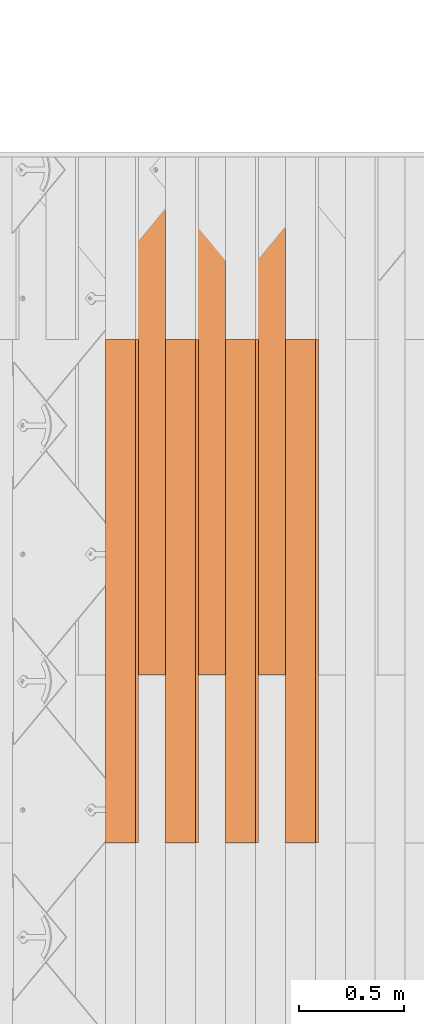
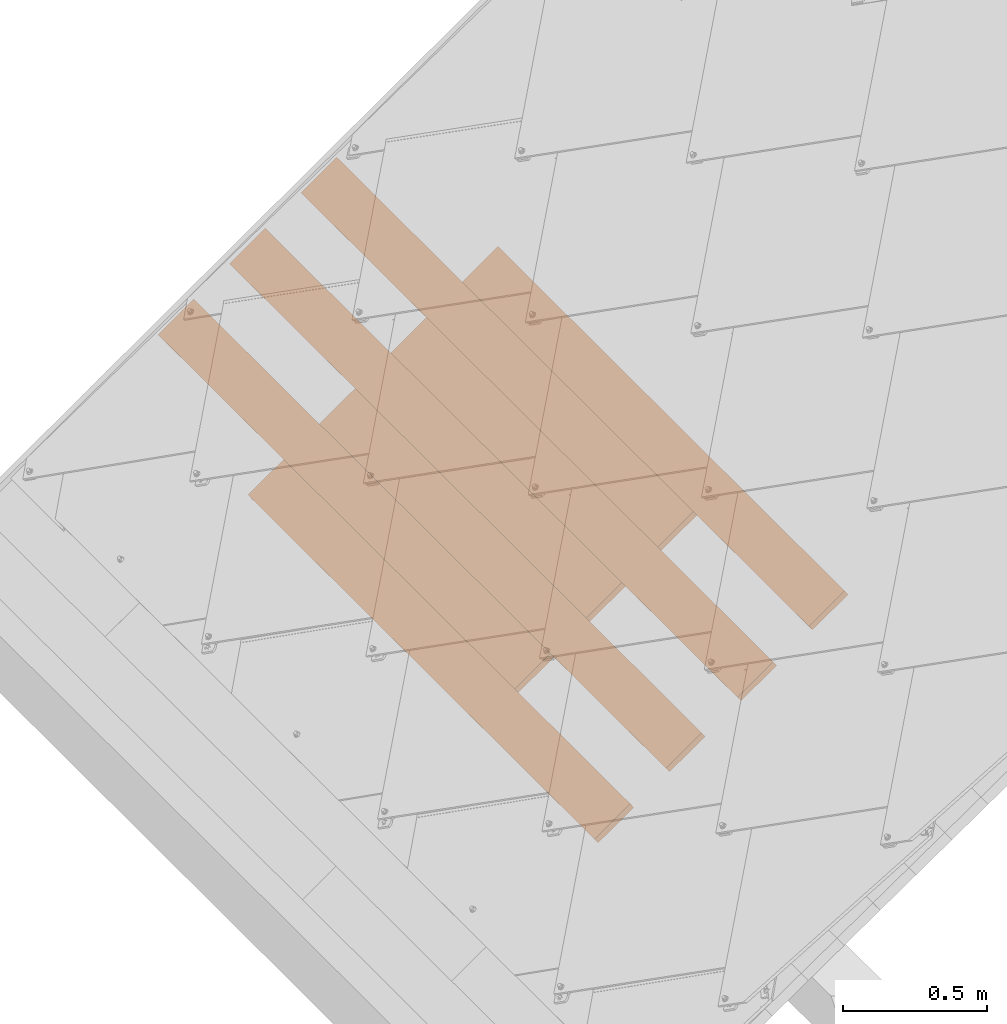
# One storey, part 53 of 133: 7 proxies, 1 element without a shape of its own.
"""IFC2X3 building model written with IfcOpenShell, lengths in millimetres."""

from ifc_helpers import new_model, entity, si_unit, converted_unit, derived_unit, direction, frame, frame_2d, origin, place, context, subcontext, project, spatial, rectangle, extrude, source, transform, mapped, material, type_object, type_shapes, element, aggregate, save


model = new_model("IFC2X3")

# Units and contexts
model_context = context("Model", 3, precision=0.01, world=origin(), true_north=direction((6.12303176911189e-17, 1.0)))
body_context = subcontext(model_context, "Body", "Model", "MODEL_VIEW")
ifc_project = project(units=[si_unit("LENGTHUNIT", "METRE", prefix="MILLI"), si_unit("AREAUNIT", "SQUARE_METRE"), si_unit("VOLUMEUNIT", "CUBIC_METRE"), converted_unit("PLANEANGLEUNIT", "DEGREE", entity("IfcRatioMeasure", 0.0174532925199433), si_unit("PLANEANGLEUNIT", "RADIAN"), dimensions=[0, 0, 0, 0, 0, 0, 0]), si_unit("MASSUNIT", "GRAM", prefix="KILO"), derived_unit("MASSDENSITYUNIT", [(si_unit("MASSUNIT", "GRAM", prefix="KILO"), 1), (si_unit("LENGTHUNIT", "METRE"), -3)]), si_unit("TIMEUNIT", "SECOND"), si_unit("FREQUENCYUNIT", "HERTZ"), si_unit("THERMODYNAMICTEMPERATUREUNIT", "DEGREE_CELSIUS"), derived_unit("THERMALTRANSMITTANCEUNIT", [(si_unit("MASSUNIT", "GRAM", prefix="KILO"), 1), (si_unit("THERMODYNAMICTEMPERATUREUNIT", "KELVIN"), -1), (si_unit("TIMEUNIT", "SECOND"), -3)]), derived_unit("VOLUMETRICFLOWRATEUNIT", [(si_unit("LENGTHUNIT", "METRE"), 3), (si_unit("TIMEUNIT", "SECOND"), -1)]), si_unit("ELECTRICCURRENTUNIT", "AMPERE"), si_unit("ELECTRICVOLTAGEUNIT", "VOLT"), si_unit("POWERUNIT", "WATT"), si_unit("FORCEUNIT", "NEWTON", prefix="KILO"), si_unit("ILLUMINANCEUNIT", "LUX"), si_unit("LUMINOUSFLUXUNIT", "LUMEN"), si_unit("LUMINOUSINTENSITYUNIT", "CANDELA"), derived_unit("USERDEFINED", [(si_unit("MASSUNIT", "GRAM", prefix="KILO"), -1), (si_unit("LENGTHUNIT", "METRE"), -2), (si_unit("TIMEUNIT", "SECOND"), 3), (si_unit("LUMINOUSFLUXUNIT", "LUMEN"), 1)]), derived_unit("LINEARVELOCITYUNIT", [(si_unit("LENGTHUNIT", "METRE"), 1), (si_unit("TIMEUNIT", "SECOND"), -1)]), si_unit("PRESSUREUNIT", "PASCAL"), derived_unit("USERDEFINED", [(si_unit("LENGTHUNIT", "METRE"), -2), (si_unit("MASSUNIT", "GRAM", prefix="KILO"), 1), (si_unit("TIMEUNIT", "SECOND"), -2)])], contexts=[model_context])

# Site, building, storey
site_placement = place(None, origin())
site = spatial("IfcSite", under=ifc_project, at=site_placement, Name="Default", CompositionType="ELEMENT")
building_placement = place(site_placement, origin())
building = spatial("IfcBuilding", under=site, at=building_placement, CompositionType="ELEMENT")
storey_placement = place(building_placement, origin())
storey = spatial("IfcBuildingStorey", under=building, at=storey_placement, Name="Level 1", CompositionType="ELEMENT", Elevation=0.0)

# Assembly, proxies
assembly_placement = place(storey_placement, origin())
assembly = element("IfcElementAssembly", 1, at=assembly_placement, inside=storey, Name="Structural Framing Assembly:Roof Construction Assembly", ObjectType="Structural Framing Assembly:Roof Construction Assembly", AssemblyPlace="NOTDEFINED", PredefinedType="USERDEFINED")
ifc_material = material(Name="Wood - Generic - Wood For Showcase")
building_element_proxy_type_1 = type_object("IfcBuildingElementProxyType", Name="Structural Framing 15", PredefinedType="NOTDEFINED", material=ifc_material)
shared_shape_1 = source(origin(), body_context, "Body", "SweptSolid", [
    extrude(rectangle(XDim=24.9999999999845, YDim=174.344679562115, at=frame_2d((-1.77635683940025e-13, -4.54747350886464e-13), x_axis=(0.0, 1.0))), frame((1128.20180147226, 1525.55080214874, 2760.23940055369), z_axis=(0.0, 1.0, 0.0), x_axis=(-0.819152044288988, 0.0, -0.573576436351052)), (0.0, 0.0, 1.0), 2399.99999999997),
])
type_shapes(building_element_proxy_type_1, [shared_shape_1])
proxy_1_placement = place(assembly_placement, frame((-2142.22201011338, -870.0, -1500.0)))
proxy_1 = element("IfcBuildingElementProxy", 2, at=proxy_1_placement, type_object=building_element_proxy_type_1, material=ifc_material, Name="Structural Framing 90:Structural Framing 15", ObjectType="Structural Framing 90:Structural Framing 15", context=body_context, shape_type="MappedRepresentation", body=[
    mapped(shared_shape_1, transform((0.0, 0.0, 0.0), scale=1.0)),
])
building_element_proxy_type_2 = type_object("IfcBuildingElementProxyType", Name="Structural Framing 15", PredefinedType="NOTDEFINED", material=ifc_material)
shared_shape_2 = source(origin(), body_context, "Body", "SweptSolid", [
    extrude(rectangle(XDim=24.9999999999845, YDim=174.344679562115, at=frame_2d((-1.77635683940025e-13, -4.54747350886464e-13), x_axis=(0.0, 1.0))), frame((1128.20180147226, 1455.55080214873, 2760.23940055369), z_axis=(0.0, 1.0, 0.0), x_axis=(-0.819152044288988, 0.0, -0.573576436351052)), (0.0, 0.0, 1.0), 2469.99999999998),
])
type_shapes(building_element_proxy_type_2, [shared_shape_2])
proxy_2_placement = place(assembly_placement, frame((-2285.03681078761, 0.0, -1600.0)))
proxy_2 = element("IfcBuildingElementProxy", 3, at=proxy_2_placement, type_object=building_element_proxy_type_2, material=ifc_material, Name="Structural Framing 95:Structural Framing 15", ObjectType="Structural Framing 95:Structural Framing 15", context=body_context, shape_type="MappedRepresentation", body=[
    mapped(shared_shape_2, transform((0.0, 0.0, 0.0), scale=1.0)),
])
building_element_proxy_type_3 = type_object("IfcBuildingElementProxyType", Name="Structural Framing 15", PredefinedType="NOTDEFINED", material=ifc_material)
shared_shape_3 = source(origin(), body_context, "Body", "SweptSolid", [
    extrude(rectangle(XDim=24.9999999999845, YDim=174.344679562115, at=frame_2d((-1.77635683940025e-13, -4.54747350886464e-13), x_axis=(0.0, 1.0))), frame((1128.20180147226, 1525.55080214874, 2760.23940055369), z_axis=(0.0, 1.0, 0.0), x_axis=(-0.819152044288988, 0.0, -0.573576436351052)), (0.0, 0.0, 1.0), 2399.99999999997),
])
type_shapes(building_element_proxy_type_3, [shared_shape_3])
proxy_3_placement = place(assembly_placement, frame((-2427.85161146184, -870.0, -1700.0)))
proxy_3 = element("IfcBuildingElementProxy", 4, at=proxy_3_placement, type_object=building_element_proxy_type_3, material=ifc_material, Name="Structural Framing 100:Structural Framing 15", ObjectType="Structural Framing 100:Structural Framing 15", context=body_context, shape_type="MappedRepresentation", body=[
    mapped(shared_shape_3, transform((0.0, 0.0, 0.0), scale=1.0)),
])
building_element_proxy_type_4 = type_object("IfcBuildingElementProxyType", Name="Structural Framing 15", PredefinedType="NOTDEFINED", material=ifc_material)
shared_shape_4 = source(origin(), body_context, "Body", "SweptSolid", [
    extrude(rectangle(XDim=24.9999999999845, YDim=174.344679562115, at=frame_2d((-1.77635683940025e-13, -4.54747350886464e-13), x_axis=(0.0, 1.0))), frame((1128.20180147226, 1455.55080214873, 2760.23940055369), z_axis=(0.0, 1.0, 0.0), x_axis=(-0.819152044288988, 0.0, -0.573576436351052)), (0.0, 0.0, 1.0), 2469.99999999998),
])
type_shapes(building_element_proxy_type_4, [shared_shape_4])
proxy_4_placement = place(assembly_placement, frame((-2570.66641213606, 0.0, -1800.0)))
proxy_4 = element("IfcBuildingElementProxy", 5, at=proxy_4_placement, type_object=building_element_proxy_type_4, material=ifc_material, Name="Structural Framing 105:Structural Framing 15", ObjectType="Structural Framing 105:Structural Framing 15", context=body_context, shape_type="MappedRepresentation", body=[
    mapped(shared_shape_4, transform((0.0, 0.0, 0.0), scale=1.0)),
])
building_element_proxy_type_5 = type_object("IfcBuildingElementProxyType", Name="Structural Framing 15", PredefinedType="NOTDEFINED", material=ifc_material)
shared_shape_5 = source(origin(), body_context, "Body", "SweptSolid", [
    extrude(rectangle(XDim=24.9999999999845, YDim=174.344679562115, at=frame_2d((-1.77635683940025e-13, -4.54747350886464e-13), x_axis=(0.0, 1.0))), frame((1128.20180147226, 1525.55080214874, 2760.23940055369), z_axis=(0.0, 1.0, 0.0), x_axis=(-0.819152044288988, 0.0, -0.573576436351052)), (0.0, 0.0, 1.0), 2399.99999999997),
])
type_shapes(building_element_proxy_type_5, [shared_shape_5])
proxy_5_placement = place(assembly_placement, frame((-2713.48121281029, -870.0, -1900.0)))
proxy_5 = element("IfcBuildingElementProxy", 6, at=proxy_5_placement, type_object=building_element_proxy_type_5, material=ifc_material, Name="Structural Framing 110:Structural Framing 15", ObjectType="Structural Framing 110:Structural Framing 15", context=body_context, shape_type="MappedRepresentation", body=[
    mapped(shared_shape_5, transform((0.0, 0.0, 0.0), scale=1.0)),
])
building_element_proxy_type_6 = type_object("IfcBuildingElementProxyType", Name="Structural Framing 15", PredefinedType="NOTDEFINED", material=ifc_material)
shared_shape_6 = source(origin(), body_context, "Body", "SweptSolid", [
    extrude(rectangle(XDim=24.9999999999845, YDim=174.344679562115, at=frame_2d((-1.77635683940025e-13, -4.54747350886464e-13), x_axis=(0.0, 1.0))), frame((1128.20180147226, 1455.55080214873, 2760.23940055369), z_axis=(0.0, 1.0, 0.0), x_axis=(-0.819152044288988, 0.0, -0.573576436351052)), (0.0, 0.0, 1.0), 2469.99999999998),
])
type_shapes(building_element_proxy_type_6, [shared_shape_6])
proxy_6_placement = place(assembly_placement, frame((-2856.29601348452, 0.0, -2000.0)))
proxy_6 = element("IfcBuildingElementProxy", 7, at=proxy_6_placement, type_object=building_element_proxy_type_6, material=ifc_material, Name="Structural Framing 115:Structural Framing 15", ObjectType="Structural Framing 115:Structural Framing 15", context=body_context, shape_type="MappedRepresentation", body=[
    mapped(shared_shape_6, transform((0.0, 0.0, 0.0), scale=1.0)),
])
building_element_proxy_type_7 = type_object("IfcBuildingElementProxyType", Name="Structural Framing 15", PredefinedType="NOTDEFINED", material=ifc_material)
shared_shape_7 = source(origin(), body_context, "Body", "SweptSolid", [
    extrude(rectangle(XDim=24.9999999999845, YDim=174.344679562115, at=frame_2d((-1.77635683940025e-13, -4.54747350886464e-13), x_axis=(0.0, 1.0))), frame((1128.20180147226, 1525.55080214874, 2760.23940055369), z_axis=(0.0, 1.0, 0.0), x_axis=(-0.819152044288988, 0.0, -0.573576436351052)), (0.0, 0.0, 1.0), 2399.99999999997),
])
type_shapes(building_element_proxy_type_7, [shared_shape_7])
proxy_7_placement = place(assembly_placement, frame((-2999.11081415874, -870.0, -2100.0)))
proxy_7 = element("IfcBuildingElementProxy", 8, at=proxy_7_placement, type_object=building_element_proxy_type_7, material=ifc_material, Name="Structural Framing 120:Structural Framing 15", ObjectType="Structural Framing 120:Structural Framing 15", context=body_context, shape_type="MappedRepresentation", body=[
    mapped(shared_shape_7, transform((0.0, 0.0, 0.0), scale=1.0)),
])
aggregate(assembly, [proxy_1, proxy_2, proxy_3, proxy_4, proxy_5, proxy_6, proxy_7])

save(model, "model.ifc")
